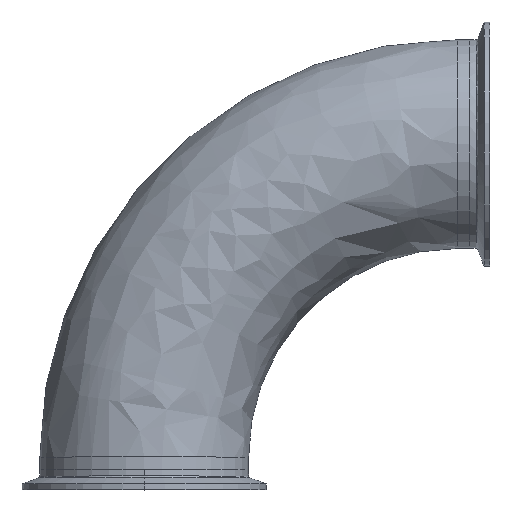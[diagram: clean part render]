
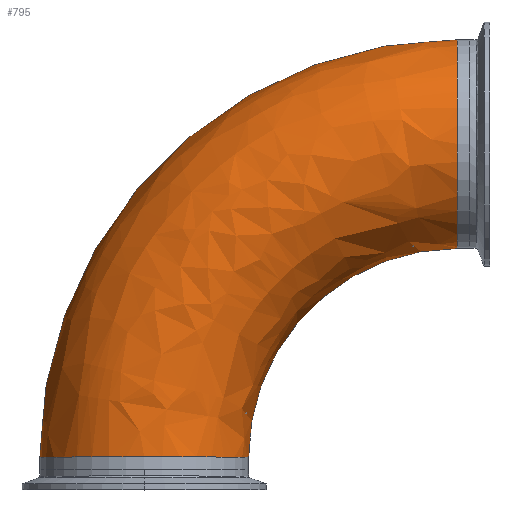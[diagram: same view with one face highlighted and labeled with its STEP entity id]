
A CAD part, top view. The second image highlights one B-rep face of the part: STEP entity #795.
In plain terms, the highlighted free-form (B-spline) face has degree [3, 3] with [4, 4] control points.
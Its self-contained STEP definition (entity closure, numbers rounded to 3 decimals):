
#20 = FACE_OUTER_BOUND ( 'NONE', #2313, .T. ) ;
#29 = AXIS2_PLACEMENT_3D ( 'NONE', #2847, #1219, #3077 ) ;
#51 = ORIENTED_EDGE ( 'NONE', *, *, #365, .T. ) ;
#87 = VERTEX_POINT ( 'NONE', #1994 ) ;
#365 = EDGE_CURVE ( 'NONE', #87, #1911, #3199, .T. ) ;
#449 = CARTESIAN_POINT ( 'NONE',  ( 50.8, 5.9, 0. ) ) ;
#570 = CARTESIAN_POINT ( 'NONE',  ( 152.4, 107.5, 0. ) ) ;
#591 =( BOUNDED_SURFACE ( )  B_SPLINE_SURFACE ( 3, 3, ( 
 ( #3255, #741, #635, #3070 ),
 ( #2081, #2873, #1993, #2201 ),
 ( #2758, #2071, #1738, #3350 ),
 ( #3326, #3315, #3234, #3116 ) ),
 .UNSPECIFIED., .F., .F., .F. ) 
 B_SPLINE_SURFACE_WITH_KNOTS ( ( 4, 4 ),
 ( 4, 4 ),
 ( 0., 1. ),
 ( 0., 1. ),
 .UNSPECIFIED. ) 
 GEOMETRIC_REPRESENTATION_ITEM ( )  RATIONAL_B_SPLINE_SURFACE ( (
 ( 1., 0.805, 0.805, 1.),
 ( 0.333, 0.268, 0.268, 0.333),
 ( 0.333, 0.268, 0.268, 0.333),
 ( 1., 0.805, 0.805, 1.) ) ) 
 REPRESENTATION_ITEM ( '' )  SURFACE ( )  );
#635 = CARTESIAN_POINT ( 'NONE',  ( 33.368, 209.1, 0. ) ) ;
#735 = CARTESIAN_POINT ( 'NONE',  ( 152.4, 209.1, 0. ) ) ;
#741 = CARTESIAN_POINT ( 'NONE',  ( -50.8, 124.932, 0. ) ) ;
#795 = ADVANCED_FACE ( 'NONE', ( #20 ), #591, .T. ) ;
#870 = CIRCLE ( 'NONE', #2802, 203.2 ) ;
#1156 = ORIENTED_EDGE ( 'NONE', *, *, #2997, .F. ) ;
#1219 = DIRECTION ( 'NONE',  ( -1., 0., 0. ) ) ;
#1268 = DIRECTION ( 'NONE',  ( -1., 0., 0. ) ) ;
#1290 = DIRECTION ( 'NONE',  ( 0., 1., 0. ) ) ;
#1385 = CARTESIAN_POINT ( 'NONE',  ( 152.4, 5.9, 0. ) ) ;
#1478 = CARTESIAN_POINT ( 'NONE',  ( 0., 5.9, 0. ) ) ;
#1664 = DIRECTION ( 'NONE',  ( -1., 0., 0. ) ) ;
#1738 = CARTESIAN_POINT ( 'NONE',  ( 92.884, 107.5, 101.6 ) ) ;
#1911 = VERTEX_POINT ( 'NONE', #449 ) ;
#1960 = CIRCLE ( 'NONE', #2833, 101.6 ) ;
#1993 = CARTESIAN_POINT ( 'NONE',  ( 33.368, 209.1, 101.6 ) ) ;
#1994 = CARTESIAN_POINT ( 'NONE',  ( -50.8, 5.9, 0. ) ) ;
#2071 = CARTESIAN_POINT ( 'NONE',  ( 50.8, 65.416, 101.6 ) ) ;
#2081 = CARTESIAN_POINT ( 'NONE',  ( -50.8, 5.9, 101.6 ) ) ;
#2142 = EDGE_CURVE ( 'NONE', #1911, #2254, #1960, .T. ) ;
#2201 = CARTESIAN_POINT ( 'NONE',  ( 152.4, 209.1, 101.6 ) ) ;
#2254 = VERTEX_POINT ( 'NONE', #570 ) ;
#2280 = CARTESIAN_POINT ( 'NONE',  ( 152.4, 5.9, 0. ) ) ;
#2313 = EDGE_LOOP ( 'NONE', ( #51, #2778, #3105, #1156 ) ) ;
#2559 = DIRECTION ( 'NONE',  ( 0., 0., -1. ) ) ;
#2597 = DIRECTION ( 'NONE',  ( -1., 0., 0. ) ) ;
#2758 = CARTESIAN_POINT ( 'NONE',  ( 50.8, 5.9, 101.6 ) ) ;
#2778 = ORIENTED_EDGE ( 'NONE', *, *, #2142, .T. ) ;
#2802 = AXIS2_PLACEMENT_3D ( 'NONE', #1385, #3242, #1664 ) ;
#2833 = AXIS2_PLACEMENT_3D ( 'NONE', #2280, #2559, #2597 ) ;
#2847 = CARTESIAN_POINT ( 'NONE',  ( 152.4, 158.3, 0. ) ) ;
#2873 = CARTESIAN_POINT ( 'NONE',  ( -50.8, 124.932, 101.6 ) ) ;
#2918 = AXIS2_PLACEMENT_3D ( 'NONE', #1478, #1290, #1268 ) ;
#2933 = CIRCLE ( 'NONE', #29, 50.8 ) ;
#2997 = EDGE_CURVE ( 'NONE', #87, #3183, #870, .T. ) ;
#3032 = EDGE_CURVE ( 'NONE', #2254, #3183, #2933, .T. ) ;
#3070 = CARTESIAN_POINT ( 'NONE',  ( 152.4, 209.1, 0. ) ) ;
#3077 = DIRECTION ( 'NONE',  ( 0., 1., 0. ) ) ;
#3105 = ORIENTED_EDGE ( 'NONE', *, *, #3032, .T. ) ;
#3116 = CARTESIAN_POINT ( 'NONE',  ( 152.4, 107.5, 0. ) ) ;
#3183 = VERTEX_POINT ( 'NONE', #735 ) ;
#3199 = CIRCLE ( 'NONE', #2918, 50.8 ) ;
#3234 = CARTESIAN_POINT ( 'NONE',  ( 92.884, 107.5, 0. ) ) ;
#3242 = DIRECTION ( 'NONE',  ( 0., 0., -1. ) ) ;
#3255 = CARTESIAN_POINT ( 'NONE',  ( -50.8, 5.9, 0. ) ) ;
#3315 = CARTESIAN_POINT ( 'NONE',  ( 50.8, 65.416, 0. ) ) ;
#3326 = CARTESIAN_POINT ( 'NONE',  ( 50.8, 5.9, 0. ) ) ;
#3350 = CARTESIAN_POINT ( 'NONE',  ( 152.4, 107.5, 101.6 ) ) ;
